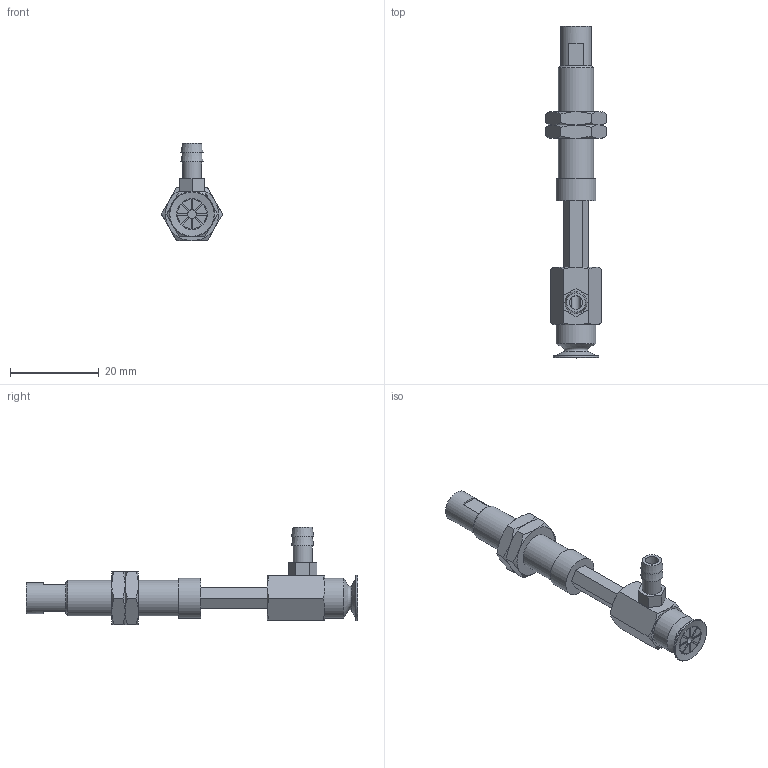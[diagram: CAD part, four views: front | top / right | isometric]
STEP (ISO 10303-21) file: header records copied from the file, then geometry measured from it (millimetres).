
FILE_DESCRIPTION(('STEP AP203'),'1');
FILE_NAME('-T.stp','2025-03-13T03:00:29',(' '),(' '),'Spatial InterOp 3D',' ',' ');
FILE_SCHEMA(('CONFIG_CONTROL_DESIGN'));
Length unit declared in the file: millimetre
Products named in the file (7): BNABPAYH-10B-15-※-T; NAPAYH-10B-15--M; NAPAYH-10B-15--F; Nut-10A-S; CONNECTOR-10B-15-PA; CONNECTOR-10A-3-T-PA; BPAG-10B-※
Assembly tree (7 placements, depth 2):
  BNABPAYH-10B-15-※-T
    NAPAYH-10B-15--M
    NAPAYH-10B-15--F
    Nut-10A-S  x2
    CONNECTOR-10B-15-PA
    CONNECTOR-10A-3-T-PA
    BPAG-10B-※
Bounding box: 13.86 x 75 x 22 mm (x, y, z)
Volume: 4134.1 mm3; surface area: 5285.6 mm2
Topology: 7 solids, 7 shells, 191 faces, 435 edges, 271 vertices
Faces by surface type: plane 99, cone 54, cylinder 27, torus 11
Full cylindrical faces by diameter (mm): 2 x2, 3 x1, 4 x2, 4.134 x2, 4.3 x1, 5 x2, 6 x2, 7 x2, 7.188 x2, 8 x1, 9 x2
Entity records: 5044 total; most frequent: CARTESIAN_POINT 1094, DIRECTION 756, ORIENTED_EDGE 670, EDGE_CURVE 335, AXIS2_PLACEMENT_3D 299, EDGE_LOOP 236, VERTEX_POINT 235, FACE_OUTER_BOUND 197
